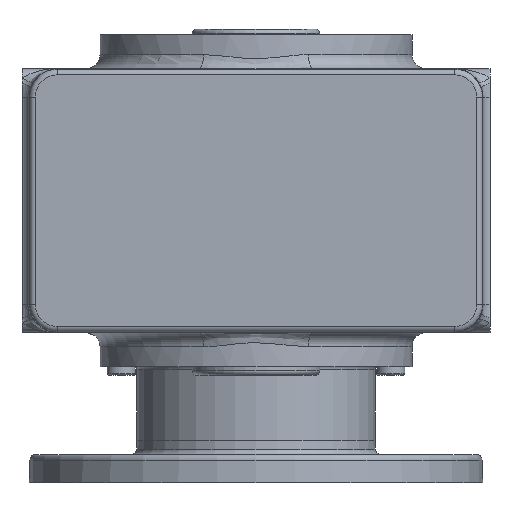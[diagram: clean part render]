
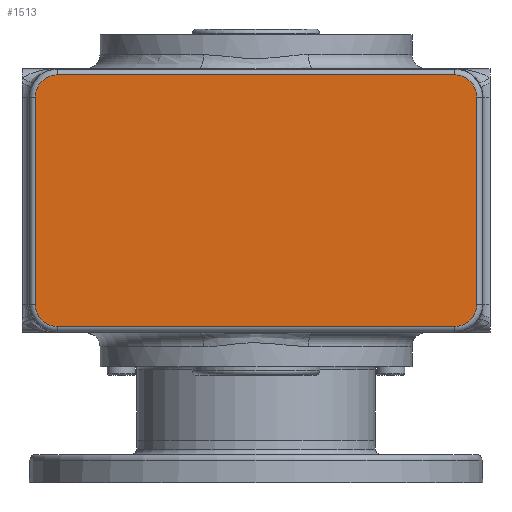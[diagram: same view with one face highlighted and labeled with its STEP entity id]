
A CAD part, front view. The second image highlights one B-rep face of the part: STEP entity #1513.
In plain terms, the highlighted planar face has unit normal (0, -1, 0).
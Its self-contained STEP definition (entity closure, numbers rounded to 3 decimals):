
#1513 = ADVANCED_FACE ( 'NONE', ( #9202 ), #9201, .T. ) ;
#1515 = EDGE_LOOP ( 'NONE', ( #3145, #3088, #62112, #4375, #4381, #4371, #4238, #4619 ) ) ;
#3080 = EDGE_CURVE ( 'NONE', #3082, #3146, #16394, .T. ) ;
#3082 = VERTEX_POINT ( 'NONE', #16386 ) ;
#3088 = ORIENTED_EDGE ( 'NONE', *, *, #62108, .T. ) ;
#3145 = ORIENTED_EDGE ( 'NONE', *, *, #3080, .T. ) ;
#3146 = VERTEX_POINT ( 'NONE', #16540 ) ;
#4238 = ORIENTED_EDGE ( 'NONE', *, *, #4479, .T. ) ;
#4369 = EDGE_CURVE ( 'NONE', #4384, #4370, #38740, .T. ) ;
#4370 = VERTEX_POINT ( 'NONE', #38726 ) ;
#4371 = ORIENTED_EDGE ( 'NONE', *, *, #4369, .T. ) ;
#4373 = EDGE_CURVE ( 'NONE', #62110, #4374, #38952, .T. ) ;
#4374 = VERTEX_POINT ( 'NONE', #38937 ) ;
#4375 = ORIENTED_EDGE ( 'NONE', *, *, #4373, .T. ) ;
#4380 = VERTEX_POINT ( 'NONE', #38928 ) ;
#4381 = ORIENTED_EDGE ( 'NONE', *, *, #4382, .T. ) ;
#4382 = EDGE_CURVE ( 'NONE', #4374, #4384, #38875, .T. ) ;
#4384 = VERTEX_POINT ( 'NONE', #38865 ) ;
#4479 = EDGE_CURVE ( 'NONE', #4370, #4380, #13867, .T. ) ;
#4544 = EDGE_CURVE ( 'NONE', #4380, #3082, #17414, .T. ) ;
#4619 = ORIENTED_EDGE ( 'NONE', *, *, #4544, .T. ) ;
#9201 = PLANE ( 'NONE',  #9262 ) ;
#9202 = FACE_OUTER_BOUND ( 'NONE', #1515, .T. ) ;
#9259 = DIRECTION ( 'NONE',  ( 0., 0., -1. ) ) ;
#9260 = DIRECTION ( 'NONE',  ( 0., -1., 0. ) ) ;
#9261 = CARTESIAN_POINT ( 'NONE',  ( 70., -74.5, 10. ) ) ;
#9262 = AXIS2_PLACEMENT_3D ( 'NONE', #9261, #9260, #9259 ) ;
#13861 = DIRECTION ( 'NONE',  ( 1., 0., 0. ) ) ;
#13863 = VECTOR ( 'NONE', #13861, 1000. ) ;
#13865 = CARTESIAN_POINT ( 'NONE',  ( 70., -74.5, 2.14 ) ) ;
#13867 = LINE ( 'NONE', #13865, #13863 ) ;
#16386 = CARTESIAN_POINT ( 'NONE',  ( 77.86, -74.5, 10. ) ) ;
#16388 = DIRECTION ( 'NONE',  ( 0., 0., 1. ) ) ;
#16390 = VECTOR ( 'NONE', #16388, 1000. ) ;
#16392 = CARTESIAN_POINT ( 'NONE',  ( 77.86, -74.5, 83. ) ) ;
#16394 = LINE ( 'NONE', #16392, #16390 ) ;
#16540 = CARTESIAN_POINT ( 'NONE',  ( 77.86, -74.5, 83. ) ) ;
#17407 = DIRECTION ( 'NONE',  ( 0., 0., -1. ) ) ;
#17409 = DIRECTION ( 'NONE',  ( 0., -1., 0. ) ) ;
#17411 = CARTESIAN_POINT ( 'NONE',  ( 70., -74.5, 10. ) ) ;
#17412 = AXIS2_PLACEMENT_3D ( 'NONE', #17411, #17409, #17407 ) ;
#17414 = CIRCLE ( 'NONE', #17412, 7.86 ) ;
#38726 = CARTESIAN_POINT ( 'NONE',  ( -70., -74.5, 2.14 ) ) ;
#38730 = DIRECTION ( 'NONE',  ( 0., 0., -1. ) ) ;
#38733 = DIRECTION ( 'NONE',  ( 0., -1., 0. ) ) ;
#38735 = CARTESIAN_POINT ( 'NONE',  ( -70., -74.5, 10. ) ) ;
#38737 = AXIS2_PLACEMENT_3D ( 'NONE', #38735, #38733, #38730 ) ;
#38740 = CIRCLE ( 'NONE', #38737, 7.86 ) ;
#38865 = CARTESIAN_POINT ( 'NONE',  ( -77.86, -74.5, 10. ) ) ;
#38868 = DIRECTION ( 'NONE',  ( 0., 0., -1. ) ) ;
#38871 = VECTOR ( 'NONE', #38868, 1000. ) ;
#38873 = CARTESIAN_POINT ( 'NONE',  ( -77.86, -74.5, 10. ) ) ;
#38875 = LINE ( 'NONE', #38873, #38871 ) ;
#38928 = CARTESIAN_POINT ( 'NONE',  ( 70., -74.5, 2.14 ) ) ;
#38937 = CARTESIAN_POINT ( 'NONE',  ( -77.86, -74.5, 83. ) ) ;
#38942 = DIRECTION ( 'NONE',  ( 0., 0., -1. ) ) ;
#38945 = DIRECTION ( 'NONE',  ( 0., -1., 0. ) ) ;
#38948 = CARTESIAN_POINT ( 'NONE',  ( -70., -74.5, 83. ) ) ;
#38949 = AXIS2_PLACEMENT_3D ( 'NONE', #38948, #38945, #38942 ) ;
#38952 = CIRCLE ( 'NONE', #38949, 7.86 ) ;
#39081 = CARTESIAN_POINT ( 'NONE',  ( 70., -74.5, 83. ) ) ;
#39083 = CARTESIAN_POINT ( 'NONE',  ( 70., -74.5, 90.86 ) ) ;
#39207 = DIRECTION ( 'NONE',  ( -1., 0., 0. ) ) ;
#39208 = VECTOR ( 'NONE', #39207, 1000. ) ;
#39210 = CARTESIAN_POINT ( 'NONE',  ( -70., -74.5, 90.86 ) ) ;
#39212 = LINE ( 'NONE', #39210, #39208 ) ;
#39217 = CARTESIAN_POINT ( 'NONE',  ( -70., -74.5, 90.86 ) ) ;
#39219 = DIRECTION ( 'NONE',  ( 0., 0., -1. ) ) ;
#39221 = DIRECTION ( 'NONE',  ( 0., -1., 0. ) ) ;
#39223 = AXIS2_PLACEMENT_3D ( 'NONE', #39081, #39221, #39219 ) ;
#39225 = CIRCLE ( 'NONE', #39223, 7.86 ) ;
#62106 = VERTEX_POINT ( 'NONE', #39083 ) ;
#62108 = EDGE_CURVE ( 'NONE', #3146, #62106, #39225, .T. ) ;
#62110 = VERTEX_POINT ( 'NONE', #39217 ) ;
#62112 = ORIENTED_EDGE ( 'NONE', *, *, #62114, .T. ) ;
#62114 = EDGE_CURVE ( 'NONE', #62106, #62110, #39212, .T. ) ;
